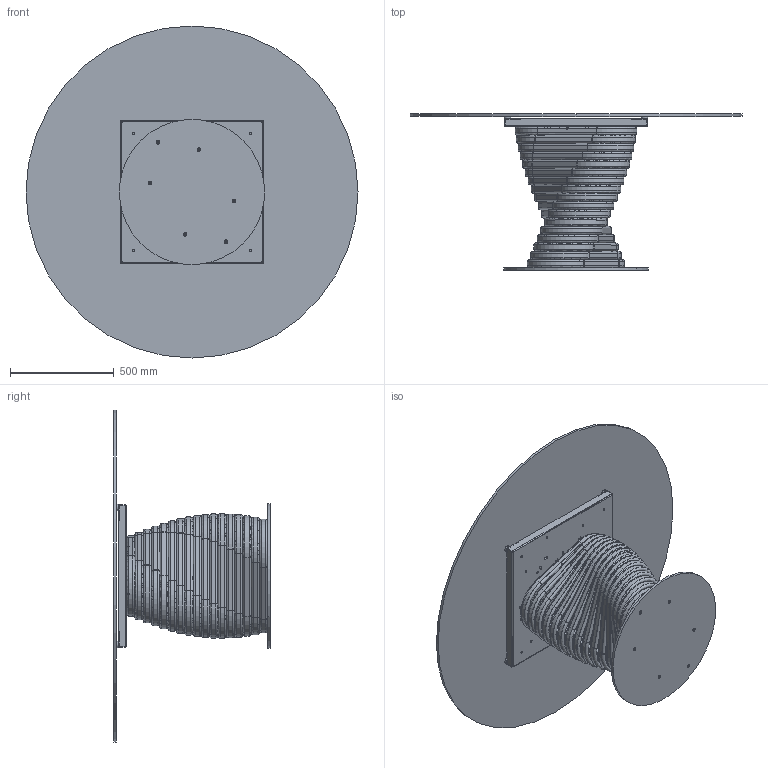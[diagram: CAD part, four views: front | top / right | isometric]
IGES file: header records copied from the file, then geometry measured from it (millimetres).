
Start section: SolidWorks IGES file using analytic representation for surfaces
Global section: file name: Y:\eforma\TECNICO\SOLIDWORKS\E-FORMA\1-TAVOLI\ROTOLO\02 parts\RO08G.IGS; native system: SolidWorks 2022; preprocessor: SolidWorks 2022; author: eforma.tech; date: 240807.150733; units: millimetre
Bounding box: 1600 x 754 x 1600 mm (x, y, z)
Volume: 35954394.5 mm3; surface area: 10966808.4 mm2
Topology: 97 solids, 97 shells, 1632 faces, 4000 edges, 2542 vertices
Faces by surface type: revolution 938, plane 694
